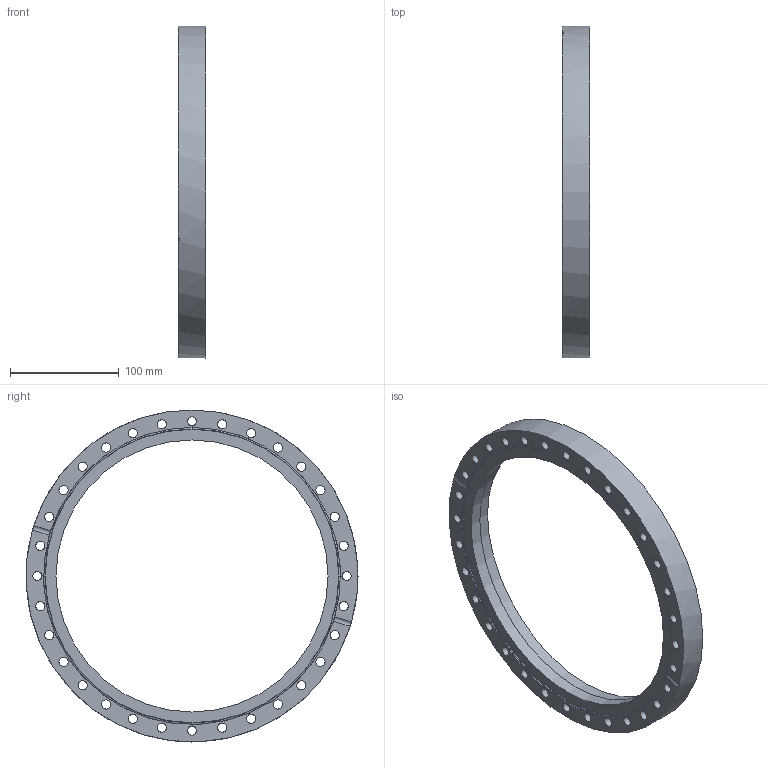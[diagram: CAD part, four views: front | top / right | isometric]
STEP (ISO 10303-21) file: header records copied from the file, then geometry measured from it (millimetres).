
FILE_DESCRIPTION( ( 'Unknown' ), '1' );
FILE_NAME( 'X:/Daten ( aktueller Bestand )/Projekte und Zeichnungen/Solid Edge/STP-Dateien/CF-Teile/7517F4.stp', 'Unknown', ( 'Unknown' ), ( 'Unknown' ), 'PSStep 14.0', 'Unknown', ' ' );
FILE_SCHEMA( ( 'AUTOMOTIVE_DESIGN { 1 0 10303 214 1 1 1 1 }' ) );
Length unit declared in the file: millimetre
Products named in the file (1): 1
Bounding box: 25 x 305 x 305 mm (x, y, z)
Volume: 521480.9 mm3; surface area: 109667.8 mm2
Topology: 1 solids, 1 shells, 45 faces, 156 edges, 114 vertices
Faces by surface type: cylinder 38, plane 5, cone 2
Full cylindrical faces by diameter (mm): 8.4 x32, 250 x1, 254.5 x1, 273 x1, 305 x1
Entity records: 1838 total; most frequent: CARTESIAN_POINT 278, DIRECTION 248, ORIENTED_EDGE 168, EDGE_LOOP 150, AXIS2_PLACEMENT_3D 122, EDGE_CURVE 84, FACE_OUTER_BOUND 81, VERTEX_POINT 80
